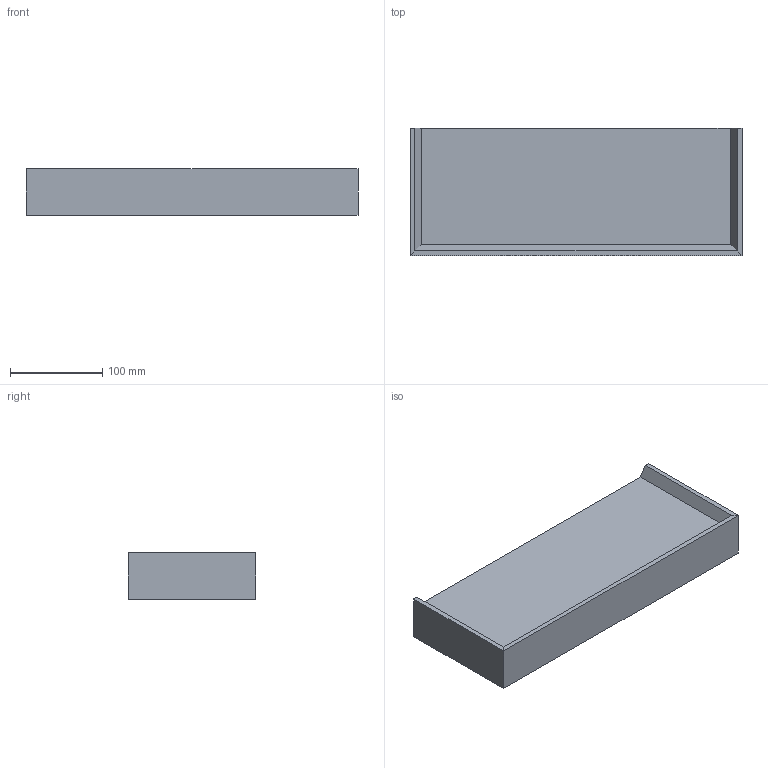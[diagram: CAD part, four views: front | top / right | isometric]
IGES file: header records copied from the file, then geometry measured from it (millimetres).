
Start section: Data from Parasolid IGES Translator 22.0.50, Copyright(c) 2006 Siemens P LM Software. All Rights Reserved.
Global section: file name: noorth-haus-H 5 D 13 W 36_4281.igs; native system: By Siemens PLM Incorporated; preprocessor: XPlus GENERIC/IGES 22.0.50; author: Noname; organization: Noname; date: 20251207.160053; units: metre
Bounding box: 360 x 138 x 50 mm (x, y, z)
Volume: 850405.3 mm3; surface area: 173037.6 mm2
Topology: 4 solids, 4 shells, 27 faces, 57 edges, 38 vertices
Faces by surface type: plane 27
